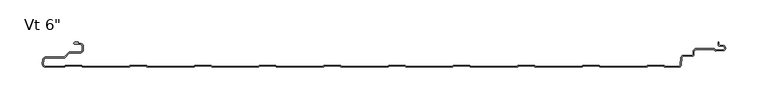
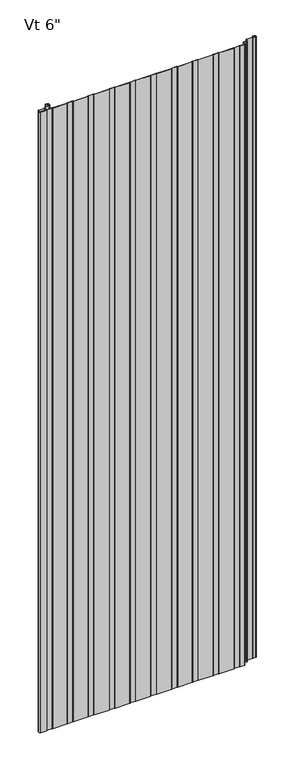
"""IFC4 building model written with IfcOpenShell, lengths in millimetres: plate geometry."""

from ifc_helpers import new_model, si_unit, point, frame_2d, origin, origin_with_axes, place, context, project, spatial, polyline, circle_curve, trimmed, segment, composite_curve, outline, extrude, source, transform, mapped, element, save


def plate_04e56d12(model_context):
    return source(origin(), model_context, "Body", "SweptSolid", [
        extrude(outline(composite_curve([segment(polyline([(-391.6415934, -152.3997351), (-413.4521176, -152.3997351)]), True, "CONTINUOUS"), segment(trimmed(circle_curve(frame_2d((-413.4521176, -148.8294958)), 3.5702393), [point((-413.4521176, -152.3997351))], [point((-417.008762, -148.5182254))], False, "CARTESIAN"), True, "CONTINUOUS"), segment(polyline([(-417.008762, -148.5182254), (-416.5690675, -143.4941788)]), True, "CONTINUOUS"), segment(trimmed(circle_curve(frame_2d((-412.9198392, -144.1049799)), 3.6999926), [point((-416.5690675, -143.4941788))], [point((-412.9198392, -140.4049873))], False, "CARTESIAN"), True, "CONTINUOUS"), segment(polyline([(-412.9198392, -140.4049873), (-391.7773997, -140.4049873)]), True, "CONTINUOUS"), segment(trimmed(circle_curve(frame_2d((-391.7773997, -139.1049899)), 1.2999974), [point((-391.7773997, -140.4049873))], [point((-390.8581627, -140.0242269))], True, "CARTESIAN"), True, "CONTINUOUS"), segment(polyline([(-390.8581627, -140.0242269), (-386.0297453, -135.1958094)]), True, "CONTINUOUS"), segment(trimmed(circle_curve(frame_2d((-384.1205608, -137.1049939)), 2.6999946), [point((-386.0297453, -135.1958094))], [point((-384.1205608, -134.4049993))], False, "CARTESIAN"), True, "CONTINUOUS"), segment(polyline([(-384.1205608, -134.4049993), (-372.3096717, -134.4049993)]), True, "CONTINUOUS"), segment(trimmed(circle_curve(frame_2d((-372.3096717, -132.055004)), 2.3499953), [point((-372.3096717, -134.4049993))], [point((-369.9596764, -132.055004))], True, "CARTESIAN"), True, "CONTINUOUS"), segment(polyline([(-369.9596764, -132.055004), (-369.9596764, -127.6550128)]), True, "CONTINUOUS"), segment(trimmed(circle_curve(frame_2d((-372.3096717, -127.6550128)), 2.3499953), [point((-369.9596764, -127.6550128))], [point((-372.3096717, -125.3050175))], True, "CARTESIAN"), True, "CONTINUOUS"), segment(polyline([(-372.3096717, -125.3050175), (-378.8289779, -125.3050175)]), True, "CONTINUOUS"), segment(trimmed(circle_curve(frame_2d((-378.7686908, -124.1065352)), 1.1999976), [point((-378.8289779, -125.3050175))], [point((-379.9683001, -124.0760133))], False, "CARTESIAN"), True, "CONTINUOUS"), segment(trimmed(circle_curve(frame_2d((-378.7686908, -124.1065352)), 1.1999976), [point((-379.9683001, -124.0760133))], [point((-378.7671761, -122.9065386))], False, "CARTESIAN"), True, "CONTINUOUS"), segment(polyline([(-378.7671761, -122.9065386), (-375.0087827, -122.9065386), (-375.0087827, -124.3050175), (-372.3096717, -124.3050175)]), True, "CONTINUOUS"), segment(trimmed(circle_curve(frame_2d((-372.3096717, -127.6550128)), 3.3499953), [point((-372.3096717, -124.3050175))], [point((-368.9596764, -127.6550128))], False, "CARTESIAN"), True, "CONTINUOUS"), segment(polyline([(-368.9596764, -127.6550128), (-368.9596764, -132.055004)]), True, "CONTINUOUS"), segment(trimmed(circle_curve(frame_2d((-372.3096717, -132.055004)), 3.3499953), [point((-368.9596764, -132.055004))], [point((-372.3096717, -135.4049993))], False, "CARTESIAN"), True, "CONTINUOUS"), segment(polyline([(-372.3096717, -135.4049993), (-384.1205608, -135.4049993)]), True, "CONTINUOUS"), segment(trimmed(circle_curve(frame_2d((-384.1205608, -137.1049939)), 1.6999946), [point((-384.1205608, -135.4049993))], [point((-385.3226385, -135.9029162))], True, "CARTESIAN"), True, "CONTINUOUS"), segment(polyline([(-385.3226385, -135.9029162), (-390.8247096, -141.4049873), (-412.9198392, -141.4049873)]), True, "CONTINUOUS"), segment(trimmed(circle_curve(frame_2d((-412.9198392, -144.1049799)), 2.6999926), [point((-412.9198392, -141.4049873))], [point((-415.5765709, -143.6235893))], True, "CARTESIAN"), True, "CONTINUOUS"), segment(polyline([(-415.5765709, -143.6235893), (-416.0125699, -148.6054102)]), True, "CONTINUOUS"), segment(trimmed(circle_curve(frame_2d((-413.4521176, -148.8294958)), 2.5702393), [point((-416.0125699, -148.6054102))], [point((-413.4521176, -151.3997351))], True, "CARTESIAN"), True, "CONTINUOUS"), segment(polyline([(-413.4521176, -151.3997351), (-391.4790962, -151.3997351), (-390.2791277, -150.1997666), (-370.5597151, -150.1997666), (-369.3594844, -151.3999973), (-315.2793527, -151.3999973), (-314.079122, -150.1997666), (-294.3597095, -150.1997666), (-293.1594787, -151.3999973), (-239.079347, -151.3999973), (-237.8791163, -150.1997666), (-218.1597038, -150.1997666), (-216.9594731, -151.3999973), (-162.8793413, -151.3999973), (-161.6791106, -150.1997666), (-141.9596981, -150.1997666), (-140.7594674, -151.3999973), (-86.6793356, -151.3999973), (-85.4791049, -150.1997666), (-65.7596924, -150.1997666), (-64.5594617, -151.3999973), (-10.4793299, -151.3999973), (-9.2790992, -150.1997666), (10.4403133, -150.1997666), (11.640544, -151.3999973), (65.7206758, -151.3999973), (66.9209065, -150.1997666), (86.640319, -150.1997666), (87.8405497, -151.3999973), (141.9206815, -151.3999973), (143.1209122, -150.1997666), (162.8403247, -150.1997666), (164.0405554, -151.3999973), (218.1206872, -151.3999973), (219.3209179, -150.1997666), (239.0403304, -150.1997666), (240.2405611, -151.3999973), (294.3206929, -151.3999973), (295.5209236, -150.1997666), (315.2403361, -150.1997666), (316.4396652, -151.3990957), (332.5384359, -151.3990957)]), True, "CONTINUOUS"), segment(trimmed(circle_curve(frame_2d((332.5384359, -149.4491016)), 1.9499941), [point((332.5384359, -151.3990957))], [point((334.4810097, -149.6190548))], True, "CARTESIAN"), True, "CONTINUOUS"), segment(polyline([(334.4810097, -149.6190548), (335.2215397, -141.1547583)]), True, "CONTINUOUS"), segment(trimmed(circle_curve(frame_2d((338.2400056, -141.4188399)), 3.0299959), [point((335.2215397, -141.1547583))], [point((338.3657441, -138.391454))], False, "CARTESIAN"), True, "CONTINUOUS"), segment(polyline([(338.3657441, -138.391454), (348.4595941, -138.391454)]), True, "CONTINUOUS"), segment(trimmed(circle_curve(frame_2d((348.4595941, -137.4423006)), 0.9491534), [point((348.4595941, -138.391454))], [point((349.4087475, -137.4423006))], True, "CARTESIAN"), True, "CONTINUOUS"), segment(polyline([(349.4087475, -137.4423006), (349.4087475, -134.3009009)]), True, "CONTINUOUS"), segment(trimmed(circle_curve(frame_2d((353.4087415, -134.3009009)), 3.999994), [point((349.4087475, -134.3009009))], [point((353.4087415, -130.3009069))], False, "CARTESIAN"), True, "CONTINUOUS"), segment(polyline([(353.4087415, -130.3009069), (374.5895515, -130.3009069), (375.7334028, -132.2821154), (384.706811, -131.926855)]), True, "CONTINUOUS"), segment(trimmed(circle_curve(frame_2d((384.6236622, -129.8266264)), 2.1018739), [point((384.706811, -131.926855))], [point((384.7037148, -127.7262775))], True, "CARTESIAN"), True, "CONTINUOUS"), segment(polyline([(384.7037148, -127.7262775), (380.6977997, -127.4818625)]), True, "CONTINUOUS"), segment(trimmed(circle_curve(frame_2d((380.8099653, -125.643489)), 1.8417922), [point((380.6977997, -127.4818625))], [point((378.9686884, -125.68705))], False, "CARTESIAN"), True, "CONTINUOUS"), segment(polyline([(378.9686884, -125.68705), (378.9686884, -122.9025034), (379.9686884, -122.9025034), (379.9686884, -125.6729362)]), True, "CONTINUOUS"), segment(trimmed(circle_curve(frame_2d((380.8099653, -125.643489)), 0.8417922), [point((379.9686884, -125.6729362))], [point((380.7587, -126.4837187))], True, "CARTESIAN"), True, "CONTINUOUS"), segment(polyline([(380.7587, -126.4837187), (384.7543204, -126.7275055)]), True, "CONTINUOUS"), segment(trimmed(circle_curve(frame_2d((384.6236622, -129.8266264)), 3.1018739), [point((384.7543204, -126.7275055))], [point((384.7463704, -132.9260723))], False, "CARTESIAN"), True, "CONTINUOUS"), segment(polyline([(384.7463704, -132.9260723), (376.0344401, -133.2709806)]), True, "CONTINUOUS"), segment(trimmed(circle_curve(frame_2d((375.987224, -131.8217524)), 1.4499971), [point((376.0344401, -133.2709806))], [point((374.7314897, -132.546751))], False, "CARTESIAN"), True, "CONTINUOUS"), segment(polyline([(374.7314897, -132.546751), (374.0122013, -131.3009069), (353.4087415, -131.3009069)]), True, "CONTINUOUS"), segment(trimmed(circle_curve(frame_2d((353.4087415, -134.3009009)), 2.999994), [point((353.4087415, -131.3009069))], [point((350.4087475, -134.3009009))], True, "CARTESIAN"), True, "CONTINUOUS"), segment(polyline([(350.4087475, -134.3009009), (350.4087475, -137.4423006)]), True, "CONTINUOUS"), segment(trimmed(circle_curve(frame_2d((348.4595941, -137.4423006)), 1.9491534), [point((350.4087475, -137.4423006))], [point((348.4595941, -139.391454))], False, "CARTESIAN"), True, "CONTINUOUS"), segment(polyline([(348.4595941, -139.391454), (338.3429135, -139.391454)]), True, "CONTINUOUS"), segment(trimmed(circle_curve(frame_2d((338.2400056, -141.4188399)), 2.0299959), [point((338.3429135, -139.391454))], [point((336.2177344, -141.2419141))], True, "CARTESIAN"), True, "CONTINUOUS"), segment(polyline([(336.2177344, -141.2419141), (335.4772044, -149.7062105)]), True, "CONTINUOUS"), segment(trimmed(circle_curve(frame_2d((332.5384359, -149.4491016)), 2.9499941), [point((335.4772044, -149.7062105))], [point((332.5384359, -152.3990957))], False, "CARTESIAN"), True, "CONTINUOUS"), segment(polyline([(332.5384359, -152.3990957), (316.6525313, -152.3990957)]), True, "CONTINUOUS"), segment(trimmed(circle_curve(frame_2d((316.6017161, -151.000021)), 1.3999972), [point((316.6525313, -152.3990957))], [point((315.5576653, -151.9327322))], False, "CARTESIAN"), True, "CONTINUOUS"), segment(polyline([(315.5576653, -151.9327322), (314.8246997, -151.1997666), (295.9340305, -151.1997666), (295.2010858, -151.9327112)]), True, "CONTINUOUS"), segment(trimmed(circle_curve(frame_2d((294.157035, -151.0000001)), 1.3999972), [point((295.2010858, -151.9327112))], [point((294.157035, -152.3999973))], False, "CARTESIAN"), True, "CONTINUOUS"), segment(polyline([(294.157035, -152.3999973), (240.4095218, -152.3999973)]), True, "CONTINUOUS"), segment(trimmed(circle_curve(frame_2d((240.4018685, -151.000021)), 1.3999972), [point((240.4095218, -152.3999973))], [point((239.3578177, -151.9327322))], False, "CARTESIAN"), True, "CONTINUOUS"), segment(polyline([(239.3578177, -151.9327322), (238.6248521, -151.1997666), (219.7341829, -151.1997666), (219.0012382, -151.9327112)]), True, "CONTINUOUS"), segment(trimmed(circle_curve(frame_2d((217.9571874, -151.0000001)), 1.3999972), [point((219.0012382, -151.9327112))], [point((217.9571874, -152.3999973))], False, "CARTESIAN"), True, "CONTINUOUS"), segment(polyline([(217.9571874, -152.3999973), (164.2096742, -152.3999973)]), True, "CONTINUOUS"), segment(trimmed(circle_curve(frame_2d((164.2020209, -151.000021)), 1.3999972), [point((164.2096742, -152.3999973))], [point((163.1579701, -151.9327322))], False, "CARTESIAN"), True, "CONTINUOUS"), segment(polyline([(163.1579701, -151.9327322), (162.4250045, -151.1997666), (143.5343353, -151.1997666), (142.8013906, -151.9327112)]), True, "CONTINUOUS"), segment(trimmed(circle_curve(frame_2d((141.7573398, -151.0000001)), 1.3999972), [point((142.8013906, -151.9327112))], [point((141.7573398, -152.3999973))], False, "CARTESIAN"), True, "CONTINUOUS"), segment(polyline([(141.7573398, -152.3999973), (88.0098266, -152.3999973)]), True, "CONTINUOUS"), segment(trimmed(circle_curve(frame_2d((88.0021733, -151.000021)), 1.3999972), [point((88.0098266, -152.3999973))], [point((86.9581225, -151.9327322))], False, "CARTESIAN"), True, "CONTINUOUS"), segment(polyline([(86.9581225, -151.9327322), (86.2251569, -151.1997666), (67.3344877, -151.1997666), (66.601543, -151.9327112)]), True, "CONTINUOUS"), segment(trimmed(circle_curve(frame_2d((65.5574922, -151.0000001)), 1.3999972), [point((66.601543, -151.9327112))], [point((65.5574922, -152.3999973))], False, "CARTESIAN"), True, "CONTINUOUS"), segment(polyline([(65.5574922, -152.3999973), (11.809979, -152.3999973)]), True, "CONTINUOUS"), segment(trimmed(circle_curve(frame_2d((11.8023257, -151.000021)), 1.3999972), [point((11.809979, -152.3999973))], [point((10.7582749, -151.9327322))], False, "CARTESIAN"), True, "CONTINUOUS"), segment(polyline([(10.7582749, -151.9327322), (10.0253093, -151.1997666), (-8.8653599, -151.1997666), (-9.5983046, -151.9327112)]), True, "CONTINUOUS"), segment(trimmed(circle_curve(frame_2d((-10.6423554, -151.0000001)), 1.3999972), [point((-9.5983046, -151.9327112))], [point((-10.6423554, -152.3999973))], False, "CARTESIAN"), True, "CONTINUOUS"), segment(polyline([(-10.6423554, -152.3999973), (-64.3898686, -152.3999973)]), True, "CONTINUOUS"), segment(trimmed(circle_curve(frame_2d((-64.3975219, -151.000021)), 1.3999972), [point((-64.3898686, -152.3999973))], [point((-65.4415727, -151.9327322))], False, "CARTESIAN"), True, "CONTINUOUS"), segment(polyline([(-65.4415727, -151.9327322), (-66.1745383, -151.1997666), (-85.0652075, -151.1997666), (-85.7981522, -151.9327112)]), True, "CONTINUOUS"), segment(trimmed(circle_curve(frame_2d((-86.842203, -151.0000001)), 1.3999972), [point((-85.7981522, -151.9327112))], [point((-86.842203, -152.3999973))], False, "CARTESIAN"), True, "CONTINUOUS"), segment(polyline([(-86.842203, -152.3999973), (-140.5897162, -152.3999973)]), True, "CONTINUOUS"), segment(trimmed(circle_curve(frame_2d((-140.5973695, -151.000021)), 1.3999972), [point((-140.5897162, -152.3999973))], [point((-141.6414203, -151.9327322))], False, "CARTESIAN"), True, "CONTINUOUS"), segment(polyline([(-141.6414203, -151.9327322), (-142.3743859, -151.1997666), (-161.2650551, -151.1997666), (-161.9979998, -151.9327112)]), True, "CONTINUOUS"), segment(trimmed(circle_curve(frame_2d((-163.0420506, -151.0000001)), 1.3999972), [point((-161.9979998, -151.9327112))], [point((-163.0420506, -152.3999973))], False, "CARTESIAN"), True, "CONTINUOUS"), segment(polyline([(-163.0420506, -152.3999973), (-216.7895638, -152.3999973)]), True, "CONTINUOUS"), segment(trimmed(circle_curve(frame_2d((-216.7972171, -151.000021)), 1.3999972), [point((-216.7895638, -152.3999973))], [point((-217.8412679, -151.9327322))], False, "CARTESIAN"), True, "CONTINUOUS"), segment(polyline([(-217.8412679, -151.9327322), (-218.5742335, -151.1997666), (-237.4649027, -151.1997666), (-238.1978474, -151.9327112)]), True, "CONTINUOUS"), segment(trimmed(circle_curve(frame_2d((-239.2418982, -151.0000001)), 1.3999972), [point((-238.1978474, -151.9327112))], [point((-239.2418982, -152.3999973))], False, "CARTESIAN"), True, "CONTINUOUS"), segment(polyline([(-239.2418982, -152.3999973), (-292.9894114, -152.3999973)]), True, "CONTINUOUS"), segment(trimmed(circle_curve(frame_2d((-292.9970647, -151.000021)), 1.3999972), [point((-292.9894114, -152.3999973))], [point((-294.0411155, -151.9327322))], False, "CARTESIAN"), True, "CONTINUOUS"), segment(polyline([(-294.0411155, -151.9327322), (-294.7740811, -151.1997666), (-313.6647503, -151.1997666), (-314.397695, -151.9327112)]), True, "CONTINUOUS"), segment(trimmed(circle_curve(frame_2d((-315.4417458, -151.0000001)), 1.3999972), [point((-314.397695, -151.9327112))], [point((-315.4417458, -152.3999973))], False, "CARTESIAN"), True, "CONTINUOUS"), segment(polyline([(-315.4417458, -152.3999973), (-369.189259, -152.3999973)]), True, "CONTINUOUS"), segment(trimmed(circle_curve(frame_2d((-369.1969123, -151.000021)), 1.3999972), [point((-369.189259, -152.3999973))], [point((-370.2409631, -151.9327322))], False, "CARTESIAN"), True, "CONTINUOUS"), segment(polyline([(-370.2409631, -151.9327322), (-370.9739287, -151.1997666), (-389.8649141, -151.1997666), (-390.5976403, -151.9324928)]), True, "CONTINUOUS"), segment(trimmed(circle_curve(frame_2d((-391.6415934, -150.999869)), 1.3998661), [point((-390.5976403, -151.9324928))], [point((-391.6415934, -152.3997351))], False, "CARTESIAN"), True, "CONTINUOUS")], self_intersect=False)), origin_with_axes(), (0.0, 0.0, 1.0), 2400.0),
    ])


if __name__ == "__main__":
    model = new_model("IFC4")
    model_context = context("Model", 3, world=origin())
    ifc_project = project(units=[si_unit("LENGTHUNIT", "METRE", prefix="MILLI")], contexts=[model_context])
    site = spatial("IfcSite", under=ifc_project)
    building = spatial("IfcBuilding", under=site)
    placement = place(None, origin())
    plate_shape = plate_04e56d12(model_context)
    element("IfcPlate", 1, ObjectType="KIP-30-Karrier-KP-R19-CP-Vt-SL_SL : Vt 6\"", at=placement, inside=building, context=model_context, shape_type="MappedRepresentation", body=[
        mapped(plate_shape, transform((0.0, 0.0, 0.0), x_axis=(1.0, 0.0, 0.0), y_axis=(0.0, 1.0, 0.0), z_axis=(0.0, 0.0, 1.0))),
    ])
    save(model, "model.ifc")
